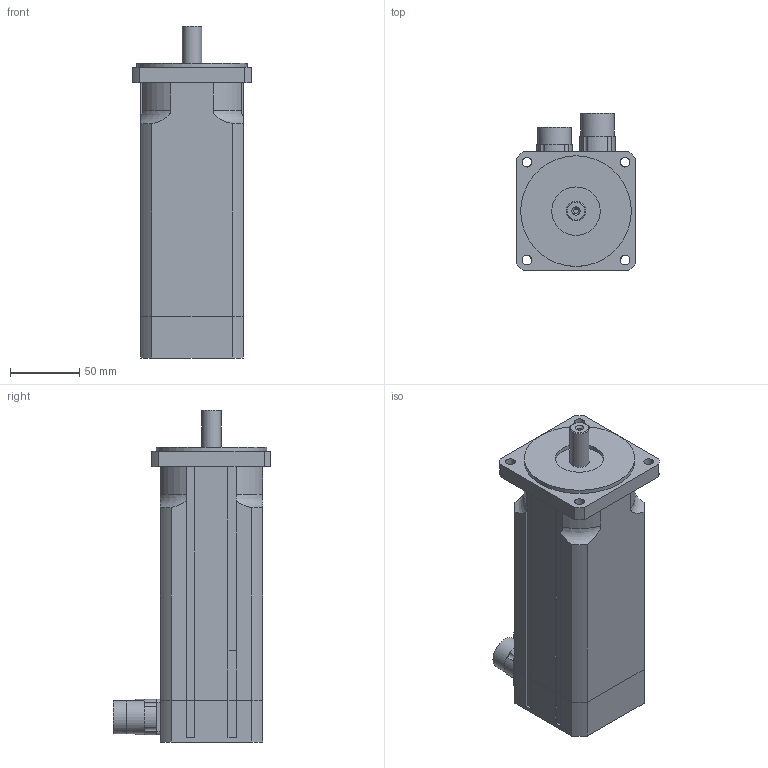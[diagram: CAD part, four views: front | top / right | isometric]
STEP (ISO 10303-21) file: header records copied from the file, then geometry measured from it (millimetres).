
FILE_DESCRIPTION(/* description */ ('Alibre Inc.'),/* implementation_level */ '2;1');
FILE_NAME(/* name */ 'export0',/* time_stamp */ '2011-09-09T12:23:00+02:00',/* author */ (''),/* organization */ (''),/* preprocessor_version */ 'ST-DEVELOPER v12',/* originating_system */ 'Alibre',/* authorisation */ '');
FILE_SCHEMA (('AUTOMOTIVE_DESIGN'));
Length unit declared in the file: millimetre
Products named in the file (5): ID_1
Bounding box: 86 x 114 x 240 mm (x, y, z)
Volume: 1146786.4 mm3; surface area: 100098.4 mm2
Topology: 4 solids, 4 shells, 165 faces, 427 edges, 277 vertices
Faces by surface type: plane 80, cylinder 55, bspline 25, torus 4, cone 1
Full cylindrical faces by diameter (mm): 2.7 x8, 14 x1, 20 x2, 24 x2, 35 x1, 80 x1
Entity records: 5363 total; most frequent: CARTESIAN_POINT 1367, ORIENTED_EDGE 788, DIRECTION 748, EDGE_CURVE 394, AXIS2_PLACEMENT_3D 307, VERTEX_POINT 268, EDGE_LOOP 224, FACE_BOUND 224
